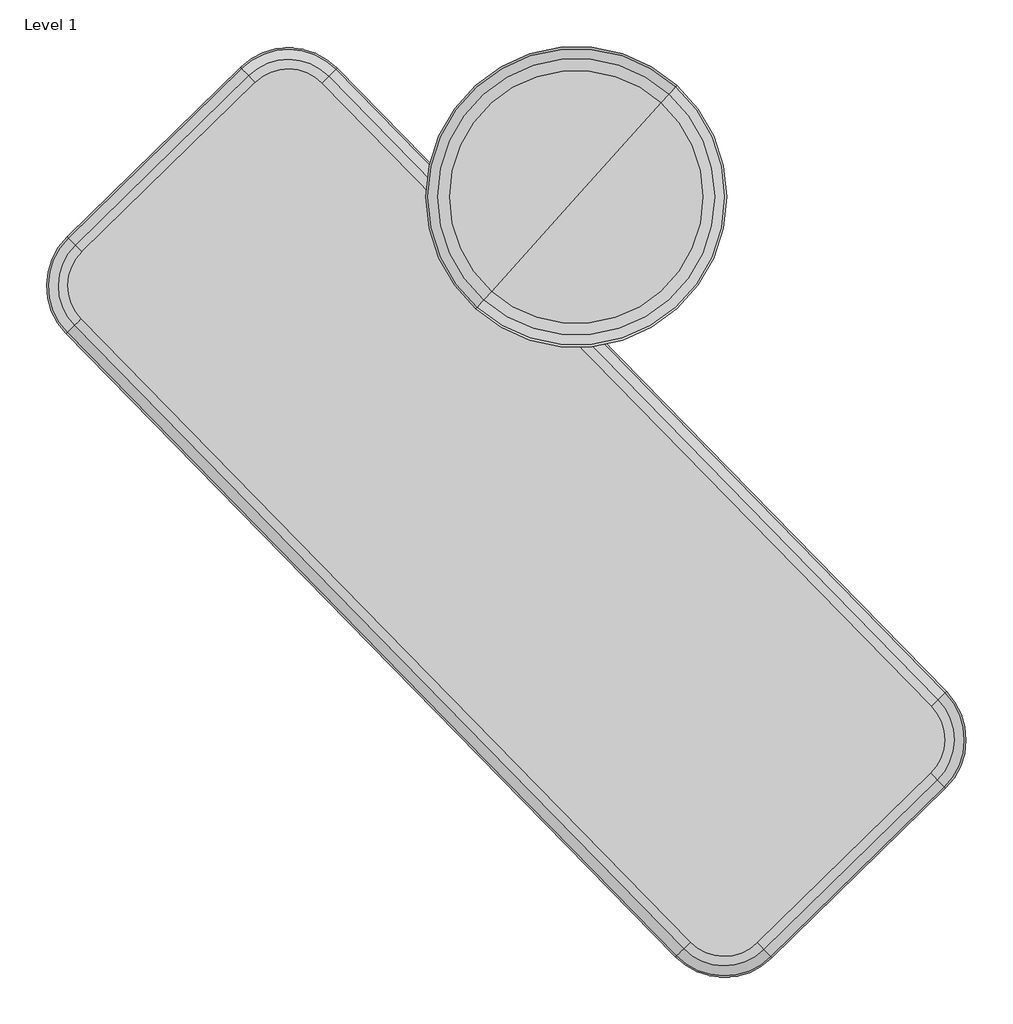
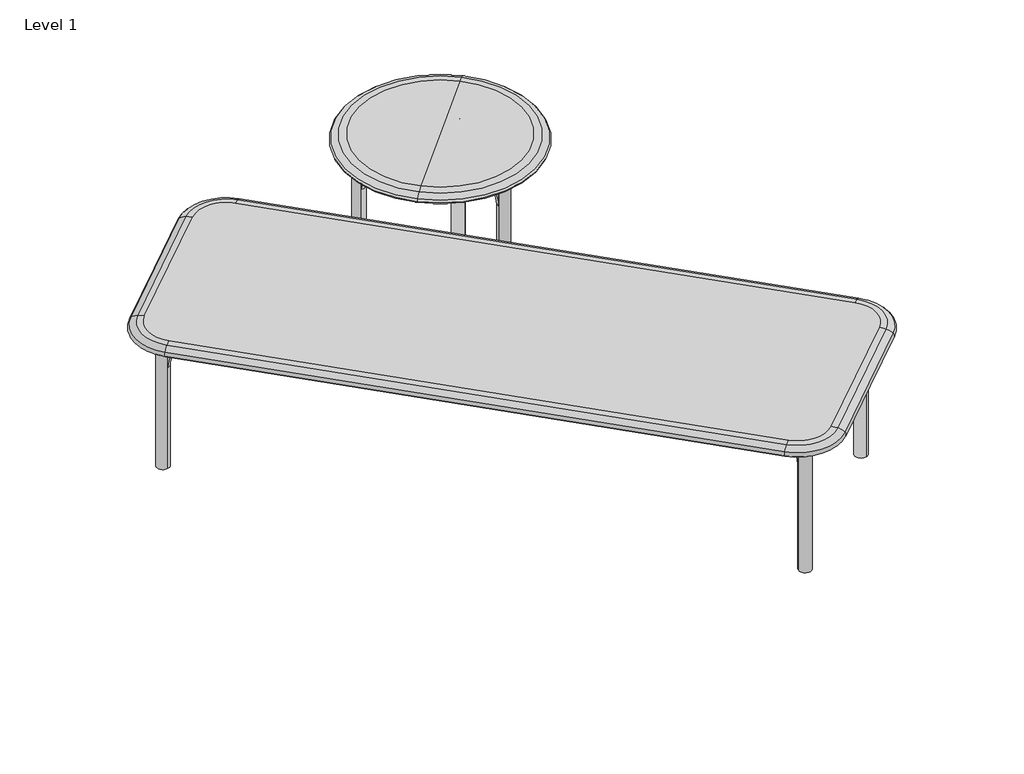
# One storey, incomplete: 2 furniture elements.
"""IFC4 building model written with IfcOpenShell, lengths in millimetres."""

from ifc_helpers import new_model, si_unit, origin, place, context, project, spatial, transform, mapped, element, save
from components import furniture_16in_d_table_f877d0f4, rectangle_93412eb4

model = new_model("IFC4")

# Units and contexts
model_context = context("Model", 3, world=origin())
ifc_project = project(units=[si_unit("LENGTHUNIT", "METRE", prefix="MILLI")], contexts=[model_context])

# Site, building, storey
site = spatial("IfcSite", under=ifc_project)
building = spatial("IfcBuilding", under=site)
storey = spatial("IfcBuildingStorey", under=building, Name="Level 1", Elevation=0.0)

# Furniture
placement = place(None, origin())
furniture_16in_d_table_shape = furniture_16in_d_table_f877d0f4(model_context)
element("IfcFurniture", 1, ObjectType="Haworth_Openest_SprigTable_Round : 16in D Table", at=placement, inside=storey, context=model_context, shape_type="MappedRepresentation", body=[
    mapped(furniture_16in_d_table_shape, transform((-8056.1486773, 2268.5488352, 0.0), x_axis=(0.6691306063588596, 0.743144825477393, 0.0), y_axis=(-0.743144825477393, 0.6691306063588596, 0.0), z_axis=(0.0, 0.0, 1.0))),
])
ifc_rectangle_shape = rectangle_93412eb4(model_context)
element("IfcFurniture", 2, ObjectType="Haworth_Openest_SprigTable_Rectangle : Rectangle", at=placement, inside=storey, context=model_context, shape_type="MappedRepresentation", body=[
    mapped(ifc_rectangle_shape, transform((-8150.1689616, 1846.502357, 0.0), x_axis=(0.6989992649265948, -0.7151223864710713, 0.0), y_axis=(0.7151223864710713, 0.6989992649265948, 0.0), z_axis=(0.0, 0.0, 1.0))),
])

save(model, "model.ifc")
